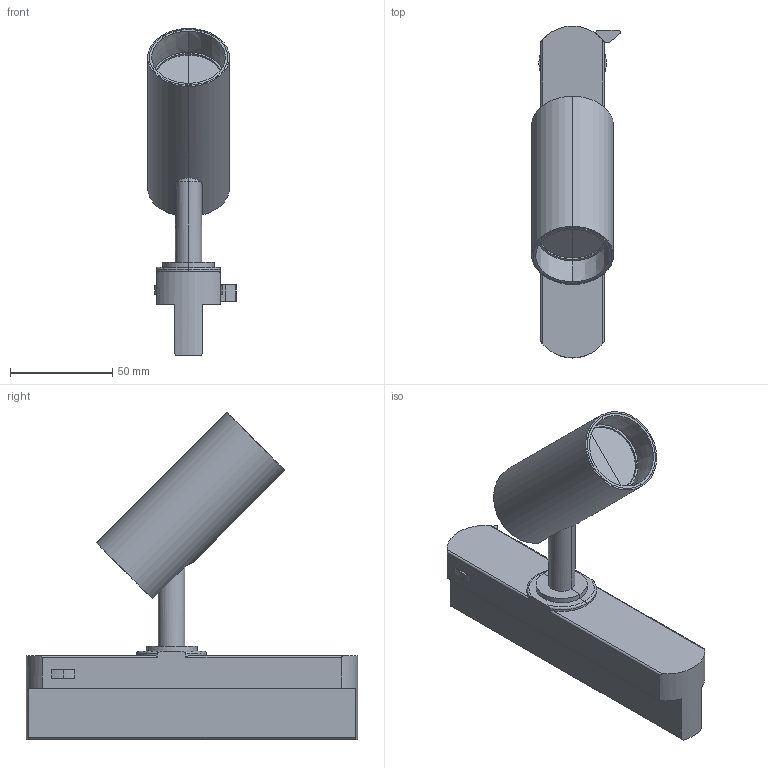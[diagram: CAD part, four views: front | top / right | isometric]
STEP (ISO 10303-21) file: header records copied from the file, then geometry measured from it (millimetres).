
FILE_DESCRIPTION(/* description */ (''),/* implementation_level */ '2;1');
FILE_NAME(/* name */ 'C:\Users\FrancoSartori\Documents\FARO\01_En Proceso\0000_2022\000_PRO\00_FOST\03_Publicación\FOST TRACK40.stp',/* time_stamp */ '2022-04-19T10:17:18+02:00',/* author */ ('FrancoSartori'),/* organization */ (''),/* preprocessor_version */ 'ST-DEVELOPER v19',/* originating_system */ 'AutoCAD Mechanical',/* authorisation */ '');
FILE_SCHEMA (('AUTOMOTIVE_DESIGN { 1 0 10303 214 3 1 1 }'));
Length unit declared in the file: millimetre
Products named in the file (2): Product; FOST TRACK40 - Lamp-694505-Export
Assembly tree (1 placements, depth 2):
  Product
    FOST TRACK40 - Lamp-694505-Export
Bounding box: 43.37 x 162.04 x 159.69 mm (x, y, z)
Volume: 172509.7 mm3; surface area: 66378.2 mm2
Topology: 9 solids, 11 shells, 183 faces, 439 edges, 272 vertices
Faces by surface type: plane 97, cylinder 70, cone 6, sphere 4, torus 4, bspline 2
Entity records: 5727 total; most frequent: CARTESIAN_POINT 1368, DIRECTION 926, ORIENTED_EDGE 862, EDGE_CURVE 435, AXIS2_PLACEMENT_3D 340, VERTEX_POINT 272, LINE 246, VECTOR 246
